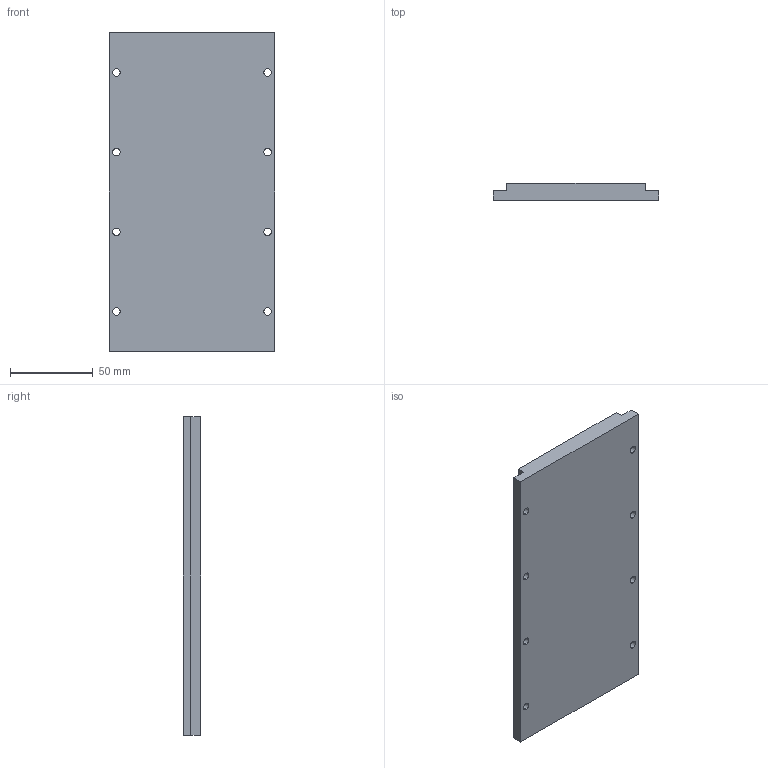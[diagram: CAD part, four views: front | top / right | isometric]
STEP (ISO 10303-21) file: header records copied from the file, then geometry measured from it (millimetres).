
FILE_DESCRIPTION (( 'STEP AP214' ), '1' );
FILE_NAME ('TLT-100-L192.STEP', '2022-04-13T09:28:17', ( 'Microsoft' ), ( 'Microsoft' ), 'SwSTEP 2.0', 'SolidWorks 2016', '' );
FILE_SCHEMA (( 'AUTOMOTIVE_DESIGN' ));
Length unit declared in the file: millimetre
Products named in the file (1): TLT-100-L192
Bounding box: 100 x 10.5 x 192 mm (x, y, z)
Volume: 186580.6 mm3; surface area: 44807.6 mm2
Topology: 1 solids, 1 shells, 26 faces, 72 edges, 48 vertices
Faces by surface type: cylinder 16, plane 10
Entity records: 914 total; most frequent: DIRECTION 158, CARTESIAN_POINT 147, ORIENTED_EDGE 144, EDGE_CURVE 72, AXIS2_PLACEMENT_3D 59, VERTEX_POINT 48, EDGE_LOOP 42, VECTOR 40
